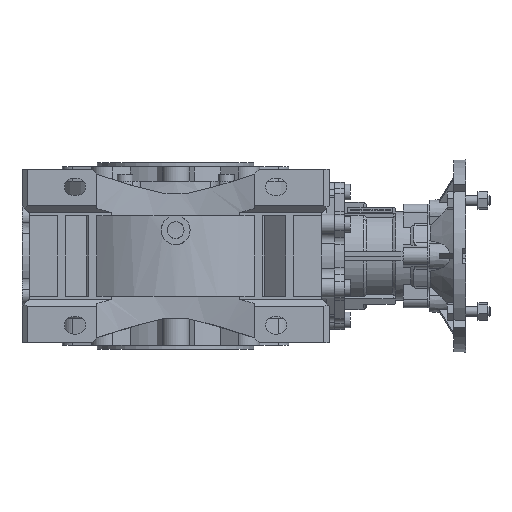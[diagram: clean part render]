
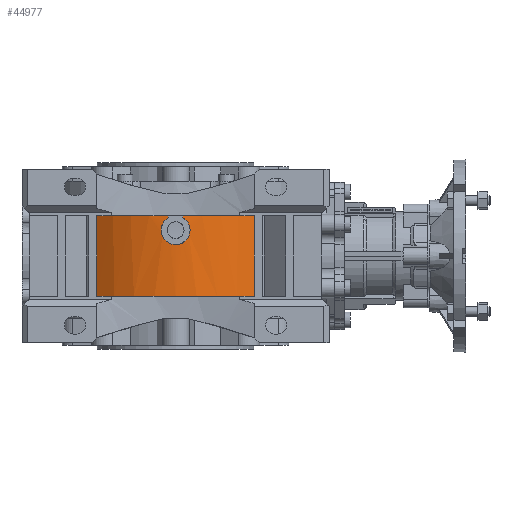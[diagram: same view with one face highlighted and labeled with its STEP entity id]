
A CAD part, front view. The second image highlights one B-rep face of the part: STEP entity #44977.
In plain terms, the highlighted cylindrical face has radius 107.7 mm (diameter 215.4 mm), a partial arc.
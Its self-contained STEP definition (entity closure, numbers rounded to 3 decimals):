
#1478=B_SPLINE_CURVE_WITH_KNOTS('',3,(#63928,#63929,#63930,#63931,#63932,
#63933,#63934,#63935,#63936,#63937,#63938,#63939,#63940,#63941,#63942,#63943,
#63944),.UNSPECIFIED.,.F.,.F.,(4,1,1,1,1,1,1,1,1,1,1,1,1,1,4),(0.,0.004,
0.008,0.012,0.016,0.02,
0.023,0.027,0.031,0.035,
0.039,0.047,0.051,0.055,
0.063),.UNSPECIFIED.);
#2010=CIRCLE('',#47119,107.7);
#2014=CIRCLE('',#47125,107.7);
#2016=CIRCLE('',#47127,107.7);
#5686=ORIENTED_EDGE('',*,*,#14063,.F.);
#5687=ORIENTED_EDGE('',*,*,#14596,.T.);
#5688=ORIENTED_EDGE('',*,*,#14597,.T.);
#5689=ORIENTED_EDGE('',*,*,#14598,.T.);
#5690=ORIENTED_EDGE('',*,*,#14069,.F.);
#5691=ORIENTED_EDGE('',*,*,#14074,.T.);
#5692=ORIENTED_EDGE('',*,*,#14054,.F.);
#5693=ORIENTED_EDGE('',*,*,#14072,.T.);
#14054=EDGE_CURVE('',#18732,#18733,#2010,.F.);
#14063=EDGE_CURVE('',#18739,#18741,#2014,.F.);
#14069=EDGE_CURVE('',#18746,#18747,#2016,.F.);
#14072=EDGE_CURVE('',#18732,#18741,#21625,.T.);
#14074=EDGE_CURVE('',#18746,#18733,#21627,.F.);
#14596=EDGE_CURVE('',#18739,#19096,#21994,.F.);
#14597=EDGE_CURVE('',#19096,#19097,#1478,.T.);
#14598=EDGE_CURVE('',#19097,#18747,#21995,.T.);
#18732=VERTEX_POINT('',#62847);
#18733=VERTEX_POINT('',#62849);
#18739=VERTEX_POINT('',#62865);
#18741=VERTEX_POINT('',#62868);
#18746=VERTEX_POINT('',#62878);
#18747=VERTEX_POINT('',#62880);
#19096=VERTEX_POINT('',#63927);
#19097=VERTEX_POINT('',#63945);
#21625=LINE('',#62885,#24425);
#21627=LINE('',#62888,#24427);
#21994=LINE('',#63926,#24794);
#21995=LINE('',#63946,#24795);
#24425=VECTOR('',#51784,1000.);
#24427=VECTOR('',#51788,1000.);
#24794=VECTOR('',#52767,1000.);
#24795=VECTOR('',#52768,1000.);
#27143=EDGE_LOOP('',(#5686,#5687,#5688,#5689,#5690,#5691,#5692,#5693));
#29334=FACE_BOUND('',#27143,.T.);
#31185=CYLINDRICAL_SURFACE('',#47435,107.7);
#44977=ADVANCED_FACE('',(#29334),#31185,.T.);
#47119=AXIS2_PLACEMENT_3D('',#62848,#51753,#51754);
#47125=AXIS2_PLACEMENT_3D('',#62867,#51770,#51771);
#47127=AXIS2_PLACEMENT_3D('',#62879,#51778,#51779);
#47435=AXIS2_PLACEMENT_3D('',#63925,#52765,#52766);
#51753=DIRECTION('',(0.,0.,-1.));
#51754=DIRECTION('',(-1.,0.,0.));
#51770=DIRECTION('',(0.,0.,1.));
#51771=DIRECTION('',(1.,0.,0.));
#51778=DIRECTION('',(0.,0.,1.));
#51779=DIRECTION('',(1.,0.,0.));
#51784=DIRECTION('',(0.,0.,-1.));
#51788=DIRECTION('',(0.,0.,-1.));
#52765=DIRECTION('',(0.,0.,-1.));
#52766=DIRECTION('',(-1.,0.,0.));
#52767=DIRECTION('',(0.,0.,-1.));
#52768=DIRECTION('',(0.,0.,-1.));
#62847=CARTESIAN_POINT('',(-65.5,-85.493,33.5));
#62848=CARTESIAN_POINT('',(0.,0.,33.5));
#62849=CARTESIAN_POINT('',(65.5,-85.493,33.5));
#62865=CARTESIAN_POINT('',(-6.,-107.533,-33.5));
#62867=CARTESIAN_POINT('',(0.,0.,-33.5));
#62868=CARTESIAN_POINT('',(-65.5,-85.493,-33.5));
#62878=CARTESIAN_POINT('',(65.5,-85.493,-33.5));
#62879=CARTESIAN_POINT('',(0.,0.,-33.5));
#62880=CARTESIAN_POINT('',(6.,-107.533,-33.5));
#62885=CARTESIAN_POINT('',(-65.5,-85.493,40.));
#62888=CARTESIAN_POINT('',(65.5,-85.493,40.));
#63925=CARTESIAN_POINT('',(0.,0.,40.));
#63926=CARTESIAN_POINT('',(-6.,-107.533,40.));
#63927=CARTESIAN_POINT('',(-6.,-107.533,-31.892));
#63928=CARTESIAN_POINT('',(-6.,-107.533,-31.892));
#63929=CARTESIAN_POINT('',(-7.144,-107.469,-31.232));
#63930=CARTESIAN_POINT('',(-9.176,-107.319,-29.561));
#63931=CARTESIAN_POINT('',(-11.284,-107.111,-26.182));
#63932=CARTESIAN_POINT('',(-12.189,-107.008,-22.308));
#63933=CARTESIAN_POINT('',(-11.802,-107.053,-18.344));
#63934=CARTESIAN_POINT('',(-10.161,-107.227,-14.719));
#63935=CARTESIAN_POINT('',(-7.445,-107.458,-11.816));
#63936=CARTESIAN_POINT('',(-3.94,-107.65,-9.937));
#63937=CARTESIAN_POINT('',(-0.012,-107.725,-9.283));
#63938=CARTESIAN_POINT('',(3.917,-107.651,-9.93));
#63939=CARTESIAN_POINT('',(8.603,-107.394,-12.423));
#63940=CARTESIAN_POINT('',(11.669,-107.068,-16.998));
#63941=CARTESIAN_POINT('',(12.19,-107.008,-22.286));
#63942=CARTESIAN_POINT('',(10.992,-107.144,-27.461));
#63943=CARTESIAN_POINT('',(8.288,-107.405,-30.572));
#63944=CARTESIAN_POINT('',(6.,-107.533,-31.892));
#63945=CARTESIAN_POINT('',(6.,-107.533,-31.892));
#63946=CARTESIAN_POINT('',(6.,-107.533,40.));
